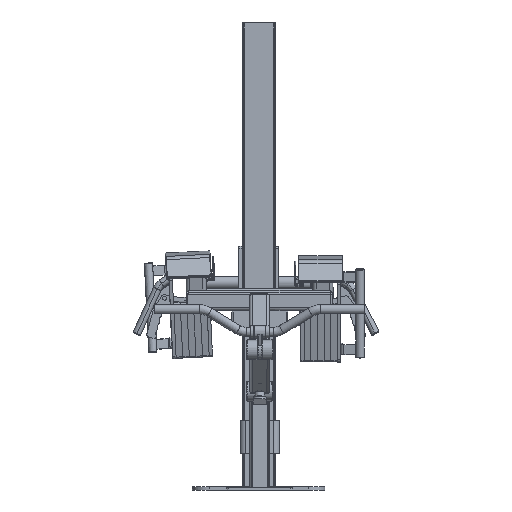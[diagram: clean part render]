
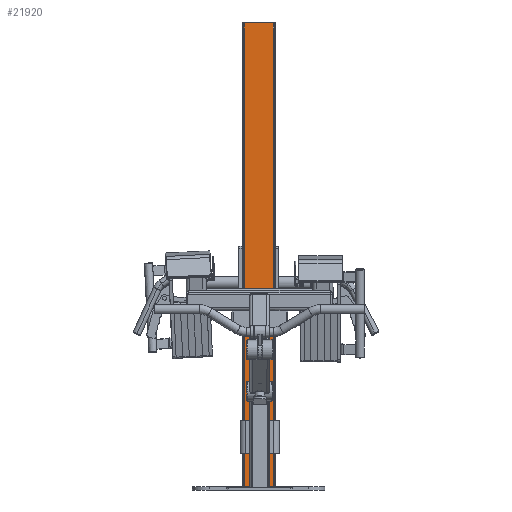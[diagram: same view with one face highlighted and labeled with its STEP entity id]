
A CAD part, left-side view. The second image highlights one B-rep face of the part: STEP entity #21920.
In plain terms, the highlighted planar face has unit normal (-1, 0, 0).
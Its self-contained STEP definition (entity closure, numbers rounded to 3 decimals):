
#2013=FACE_OUTER_BOUND('',#3459,.T.);
#3459=EDGE_LOOP('',(#18437,#18438,#18439,#18440));
#6277=LINE('',#36644,#8282);
#6280=LINE('',#36659,#8285);
#6285=LINE('',#36674,#8290);
#6313=LINE('',#36768,#8318);
#8282=VECTOR('',#29315,10.);
#8285=VECTOR('',#29328,10.);
#8290=VECTOR('',#29343,10.);
#8318=VECTOR('',#29447,10.);
#10278=VERTEX_POINT('',#36638);
#10280=VERTEX_POINT('',#36642);
#10285=VERTEX_POINT('',#36655);
#10287=VERTEX_POINT('',#36658);
#13051=EDGE_CURVE('',#10278,#10280,#6277,.T.);
#13057=EDGE_CURVE('',#10285,#10287,#6280,.T.);
#13065=EDGE_CURVE('',#10278,#10285,#6285,.T.);
#13113=EDGE_CURVE('',#10287,#10280,#6313,.T.);
#18437=ORIENTED_EDGE('',*,*,#13065,.F.);
#18438=ORIENTED_EDGE('',*,*,#13051,.T.);
#18439=ORIENTED_EDGE('',*,*,#13113,.F.);
#18440=ORIENTED_EDGE('',*,*,#13057,.F.);
#20803=PLANE('',#24043);
#21920=ADVANCED_FACE('',(#2013),#20803,.T.);
#24043=AXIS2_PLACEMENT_3D('',#36767,#29445,#29446);
#29315=DIRECTION('',(0.,0.,-1.));
#29328=DIRECTION('',(0.,0.,-1.));
#29343=DIRECTION('',(0.,-1.,0.));
#29445=DIRECTION('center_axis',(-1.,0.,0.));
#29446=DIRECTION('ref_axis',(0.,-1.,0.));
#29447=DIRECTION('',(0.,1.,0.));
#36638=CARTESIAN_POINT('',(-59.761,81.834,695.));
#36642=CARTESIAN_POINT('',(-59.761,81.834,-705.));
#36644=CARTESIAN_POINT('',(-59.761,81.834,695.));
#36655=CARTESIAN_POINT('',(-59.761,-6.166,695.));
#36658=CARTESIAN_POINT('',(-59.761,-6.166,-705.));
#36659=CARTESIAN_POINT('',(-59.761,-6.166,695.));
#36674=CARTESIAN_POINT('',(-59.761,-2.166,695.));
#36767=CARTESIAN_POINT('Origin',(-59.761,152.234,-779.4));
#36768=CARTESIAN_POINT('',(-59.761,81.834,-705.));
